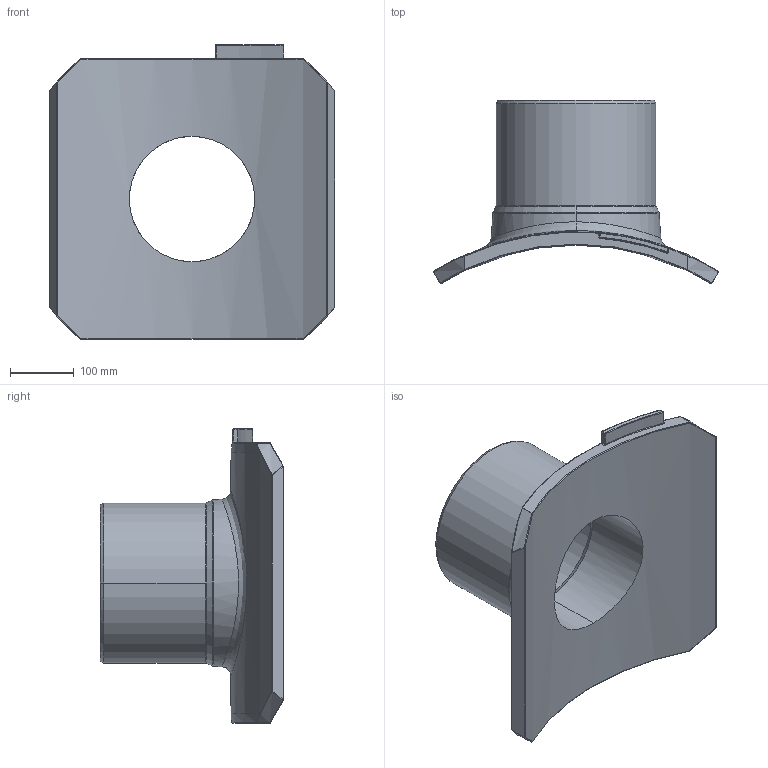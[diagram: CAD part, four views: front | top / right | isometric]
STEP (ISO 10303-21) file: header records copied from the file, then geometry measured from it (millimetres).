
FILE_DESCRIPTION((''),'2;1');
FILE_NAME('SA-UNI_D800_250_01','2024-07-01T11:33:04',('mikulicp'),(''),'CREO PARAMETRIC BY PTC INC, 2022124','CREO PARAMETRIC BY PTC INC, 2022124','');
FILE_SCHEMA(('AP242_MANAGED_MODEL_BASED_3D_ENGINEERING_MIM_LF { 1 0 10303 442 1 1 4 }'));
Length unit declared in the file: millimetre
Products named in the file (2): SA-UNI_D800_250_01; PE100
Bounding box: 445.77 x 286.19 x 460 mm (x, y, z)
Volume: 7573307.6 mm3; surface area: 676890.1 mm2
Topology: 1 solids, 1 shells, 239 faces, 575 edges, 354 vertices
Faces by surface type: bspline 74, plane 66, cylinder 49, sphere 22, torus 16, cone 12
Entity records: 14914 total; most frequent: CARTESIAN_POINT 6843, ORIENTED_EDGE 1150, DIRECTION 886, PRESENTATION_STYLE_ASSIGNMENT 587, STYLED_ITEM 576, CURVE_STYLE 575, EDGE_CURVE 575, VERTEX_POINT 354
